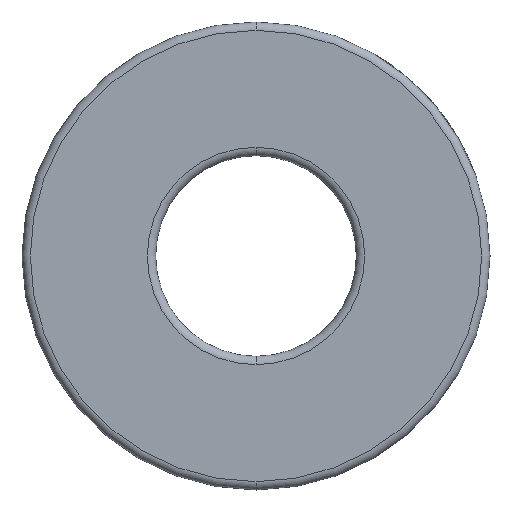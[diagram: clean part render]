
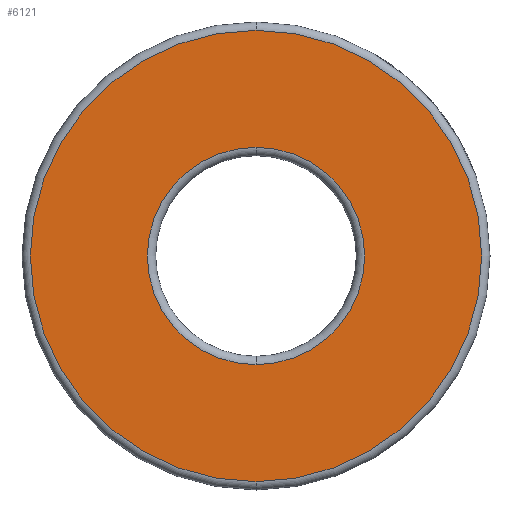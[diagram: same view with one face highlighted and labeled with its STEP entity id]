
A CAD part, front view. The second image highlights one B-rep face of the part: STEP entity #6121.
In plain terms, the highlighted planar face has unit normal (0, -1, 0).
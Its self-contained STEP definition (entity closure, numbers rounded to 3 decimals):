
#208 = EDGE_LOOP ( 'NONE', ( #6335, #5197 ) ) ;
#356 = DIRECTION ( 'NONE',  ( 0., 0., 1. ) ) ;
#527 = AXIS2_PLACEMENT_3D ( 'NONE', #5998, #2962, #6493 ) ;
#710 = CARTESIAN_POINT ( 'NONE',  ( 0., 0., 6.5 ) ) ;
#784 = CARTESIAN_POINT ( 'NONE',  ( 0., 0., 0. ) ) ;
#1085 = AXIS2_PLACEMENT_3D ( 'NONE', #5335, #2264, #5830 ) ;
#1086 = VERTEX_POINT ( 'NONE', #3350 ) ;
#1182 = CARTESIAN_POINT ( 'NONE',  ( 0., 0., 0. ) ) ;
#1315 = PLANE ( 'NONE',  #3166 ) ;
#1702 = DIRECTION ( 'NONE',  ( 0., 0., 1. ) ) ;
#1831 = DIRECTION ( 'NONE',  ( 0., 0., 1. ) ) ;
#1855 = CIRCLE ( 'NONE', #1085, 13.5 ) ;
#2113 = CARTESIAN_POINT ( 'NONE',  ( 0., 0., -13.5 ) ) ;
#2145 = VERTEX_POINT ( 'NONE', #2113 ) ;
#2264 = DIRECTION ( 'NONE',  ( 0., -1., 0. ) ) ;
#2633 = ORIENTED_EDGE ( 'NONE', *, *, #5812, .T. ) ;
#2962 = DIRECTION ( 'NONE',  ( 0., -1., 0. ) ) ;
#3042 = VERTEX_POINT ( 'NONE', #710 ) ;
#3066 = FACE_BOUND ( 'NONE', #208, .T. ) ;
#3166 = AXIS2_PLACEMENT_3D ( 'NONE', #784, #6388, #1831 ) ;
#3350 = CARTESIAN_POINT ( 'NONE',  ( 0., 0., 13.5 ) ) ;
#3451 = DIRECTION ( 'NONE',  ( 0., 1., 0. ) ) ;
#3473 = CARTESIAN_POINT ( 'NONE',  ( 0., 0., -6.5 ) ) ;
#3668 = AXIS2_PLACEMENT_3D ( 'NONE', #6483, #3451, #356 ) ;
#3683 = EDGE_CURVE ( 'NONE', #2145, #1086, #1855, .T. ) ;
#3693 = CIRCLE ( 'NONE', #5796, 6.5 ) ;
#3970 = VERTEX_POINT ( 'NONE', #3473 ) ;
#4265 = CIRCLE ( 'NONE', #3668, 6.5 ) ;
#4783 = DIRECTION ( 'NONE',  ( 0., 1., 0. ) ) ;
#5060 = EDGE_CURVE ( 'NONE', #3042, #3970, #4265, .T. ) ;
#5069 = CIRCLE ( 'NONE', #527, 13.5 ) ;
#5197 = ORIENTED_EDGE ( 'NONE', *, *, #5778, .T. ) ;
#5335 = CARTESIAN_POINT ( 'NONE',  ( 0., 0., 0. ) ) ;
#5497 = ORIENTED_EDGE ( 'NONE', *, *, #3683, .T. ) ;
#5625 = FACE_OUTER_BOUND ( 'NONE', #6578, .T. ) ;
#5778 = EDGE_CURVE ( 'NONE', #3970, #3042, #3693, .T. ) ;
#5796 = AXIS2_PLACEMENT_3D ( 'NONE', #1182, #4783, #1702 ) ;
#5812 = EDGE_CURVE ( 'NONE', #1086, #2145, #5069, .T. ) ;
#5830 = DIRECTION ( 'NONE',  ( 0., 0., 1. ) ) ;
#5998 = CARTESIAN_POINT ( 'NONE',  ( 0., 0., 0. ) ) ;
#6121 = ADVANCED_FACE ( 'NONE', ( #3066, #5625 ), #1315, .F. ) ;
#6335 = ORIENTED_EDGE ( 'NONE', *, *, #5060, .T. ) ;
#6388 = DIRECTION ( 'NONE',  ( 0., 1., 0. ) ) ;
#6483 = CARTESIAN_POINT ( 'NONE',  ( 0., 0., 0. ) ) ;
#6493 = DIRECTION ( 'NONE',  ( 0., 0., 1. ) ) ;
#6578 = EDGE_LOOP ( 'NONE', ( #2633, #5497 ) ) ;
